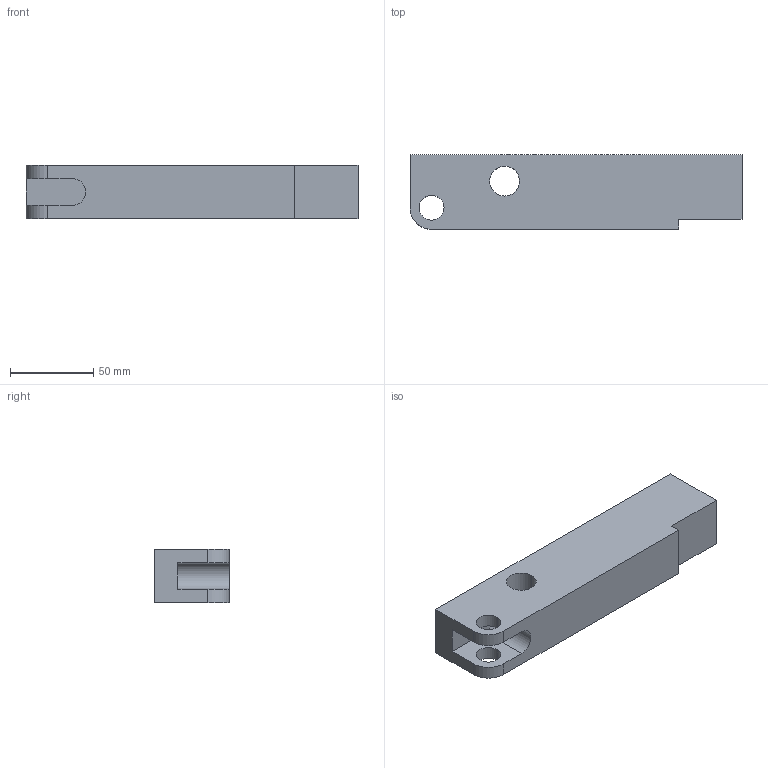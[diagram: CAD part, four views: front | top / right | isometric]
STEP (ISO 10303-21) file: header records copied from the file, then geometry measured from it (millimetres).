
FILE_DESCRIPTION (( 'STEP AP203' ), '1' );
FILE_NAME ('4193 852.STEP', '2017-11-29T09:48:53', ( '' ), ( '' ), 'SwSTEP 2.0', 'SolidWorks 2015', '' );
FILE_SCHEMA (( 'CONFIG_CONTROL_DESIGN' ));
Length unit declared in the file: millimetre
Products named in the file (1): 4193 852
Bounding box: 200 x 45 x 32 mm (x, y, z)
Volume: 252148.8 mm3; surface area: 36356.5 mm2
Topology: 1 solids, 1 shells, 20 faces, 54 edges, 36 vertices
Faces by surface type: plane 11, cylinder 9
Entity records: 725 total; most frequent: DIRECTION 114, CARTESIAN_POINT 111, ORIENTED_EDGE 108, EDGE_CURVE 54, AXIS2_PLACEMENT_3D 39, VERTEX_POINT 36, LINE 36, VECTOR 36
